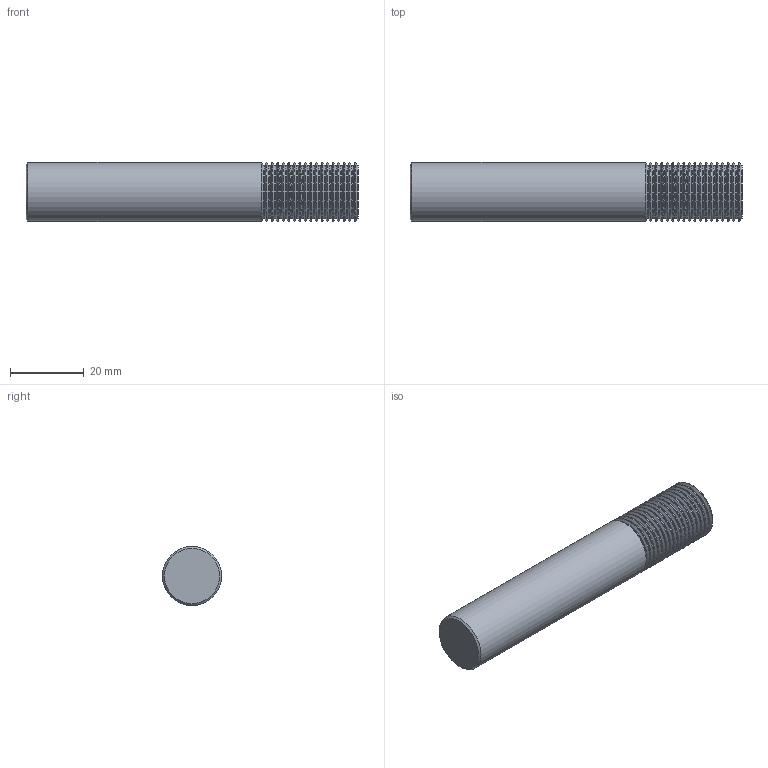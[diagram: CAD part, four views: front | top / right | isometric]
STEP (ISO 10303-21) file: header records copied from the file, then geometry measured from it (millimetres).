
FILE_DESCRIPTION(/* description */ (''),/* implementation_level */ '2;1');
FILE_NAME(/* name */ '00035636-TDM',/* time_stamp */ '2024-02-13T14:11:35+01:00',/* author */ (''),/* organization */ (''),/* preprocessor_version */ 'ST-DEVELOPER v16.5',/* originating_system */ 'HiCAD 2017 2201.0 Build 268',/* authorisation */ '');
FILE_SCHEMA (('AUTOMOTIVE_DESIGN { 1 0 10303 214 1 1 1 1 }'));
Length unit declared in the file: millimetre
Products named in the file (3): Root; ROTATIONSTEIL_2
Assembly tree (2 placements, depth 3):
  Root
    ROTATIONSTEIL_2
      ROTATIONSTEIL_2
Bounding box: 90 x 16 x 16 mm (x, y, z)
Volume: 17452 mm3; surface area: 5850.3 mm2
Topology: 2 solids, 2 shells, 112 faces, 220 edges, 112 vertices
Faces by surface type: cylinder 37, cone 36, torus 35, plane 4
Full cylindrical faces by diameter (mm): 14.344 x19, 15.95 x17, 16 x1
Entity records: 3384 total; most frequent: DIRECTION 452, CARTESIAN_POINT 336, AXIS2_PLACEMENT_3D 226, PRESENTATION_STYLE_ASSIGNMENT 222, COLOUR_RGB 222, DRAUGHTING_PRE_DEFINED_CURVE_FONT 220, CURVE_STYLE 220, OVER_RIDING_STYLED_ITEM 220
